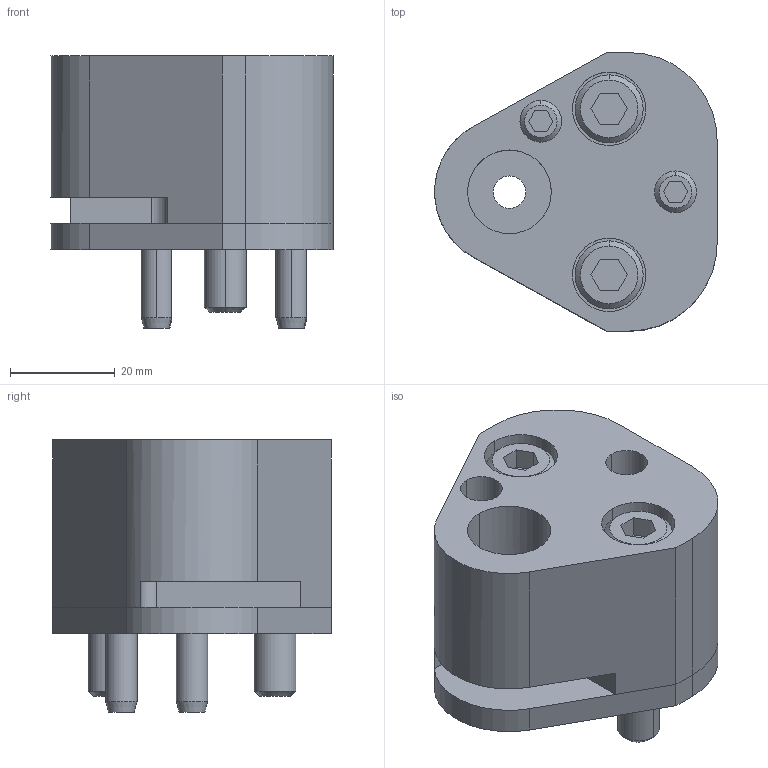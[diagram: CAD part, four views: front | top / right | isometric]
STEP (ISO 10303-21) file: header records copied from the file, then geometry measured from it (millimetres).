
FILE_DESCRIPTION(/* description */ (''),/* implementation_level */ '2;1');
FILE_NAME(/* name */ '3d_crn-fp16_03652_r00.stp',/* time_stamp */ '2011-01-10T14:16:21+09:00',/* author */ ('MISUMI'),/* organization */ (''),/* preprocessor_version */ 'ST-DEVELOPER v11',/* originating_system */ 'UGS - NX 5.0',/* authorisation */ '');
FILE_SCHEMA (('CONFIG_CONTROL_DESIGN'));
Length unit declared in the file: millimetre
Products named in the file (1): 3d_crn-fp16_03652_r00
Bounding box: 53.96 x 53.2 x 52 mm (x, y, z)
Volume: 69200.2 mm3; surface area: 24409.1 mm2
Topology: 8 solids, 8 shells, 156 faces, 358 edges, 231 vertices
Faces by surface type: plane 69, cylinder 61, cone 26
Entity records: 4585 total; most frequent: DIRECTION 815, CARTESIAN_POINT 805, ORIENTED_EDGE 716, EDGE_CURVE 358, AXIS2_PLACEMENT_3D 307, VERTEX_POINT 231, LINE 201, VECTOR 201
